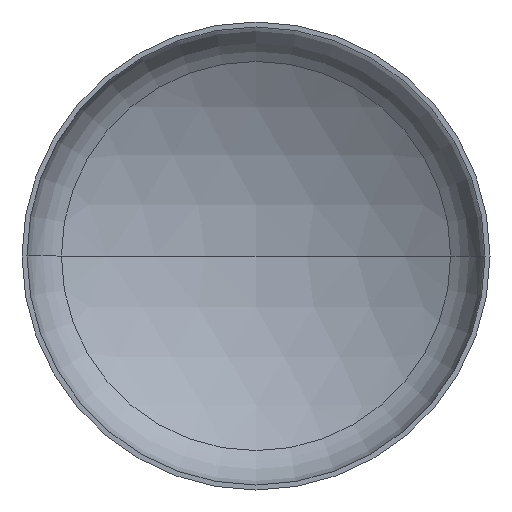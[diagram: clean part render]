
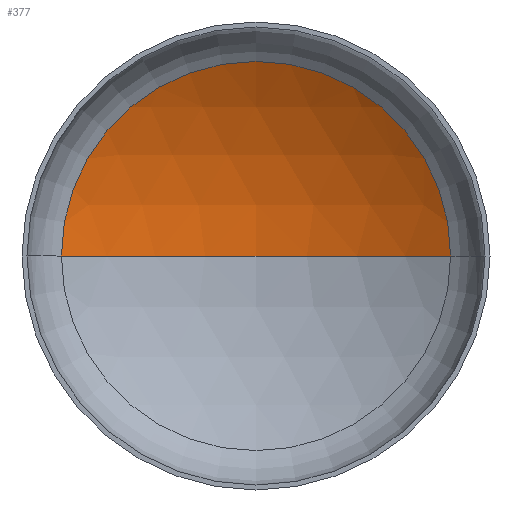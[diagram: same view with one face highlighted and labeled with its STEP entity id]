
A CAD part, front view. The second image highlights one B-rep face of the part: STEP entity #377.
In plain terms, the highlighted spherical face has radius 1280 mm.
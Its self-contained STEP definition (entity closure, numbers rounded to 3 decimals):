
#2 = AXIS2_PLACEMENT_3D ( 'NONE', #353, #182, #209 ) ;
#9 = EDGE_LOOP ( 'NONE', ( #81, #35, #139 ) ) ;
#30 = AXIS2_PLACEMENT_3D ( 'NONE', #343, #164, #173 ) ;
#34 = AXIS2_PLACEMENT_3D ( 'NONE', #220, #152, #384 ) ;
#35 = ORIENTED_EDGE ( 'NONE', *, *, #329, .T. ) ;
#38 = AXIS2_PLACEMENT_3D ( 'NONE', #132, #154, #149 ) ;
#43 = VERTEX_POINT ( 'NONE', #279 ) ;
#56 = CIRCLE ( 'NONE', #30, 1280. ) ;
#81 = ORIENTED_EDGE ( 'NONE', *, *, #341, .F. ) ;
#85 = CIRCLE ( 'NONE', #38, 665.353 ) ;
#118 = VERTEX_POINT ( 'NONE', #236 ) ;
#123 = VERTEX_POINT ( 'NONE', #337 ) ;
#132 = CARTESIAN_POINT ( 'NONE',  ( 0., 264.3, 0. ) ) ;
#139 = ORIENTED_EDGE ( 'NONE', *, *, #316, .T. ) ;
#149 = DIRECTION ( 'NONE',  ( 1., 0., 0. ) ) ;
#152 = DIRECTION ( 'NONE',  ( 0., 0., 1. ) ) ;
#154 = DIRECTION ( 'NONE',  ( 0., -1., 0. ) ) ;
#164 = DIRECTION ( 'NONE',  ( 0., 0., -1. ) ) ;
#173 = DIRECTION ( 'NONE',  ( -1., 0., 0. ) ) ;
#177 = FACE_OUTER_BOUND ( 'NONE', #9, .T. ) ;
#182 = DIRECTION ( 'NONE',  ( 0., 0., -1. ) ) ;
#191 = CIRCLE ( 'NONE', #34, 1280. ) ;
#209 = DIRECTION ( 'NONE',  ( -1., 0., 0. ) ) ;
#220 = CARTESIAN_POINT ( 'NONE',  ( 0., -829.184, 0. ) ) ;
#236 = CARTESIAN_POINT ( 'NONE',  ( -665.353, 264.3, 0. ) ) ;
#279 = CARTESIAN_POINT ( 'NONE',  ( 665.353, 264.3, 0. ) ) ;
#316 = EDGE_CURVE ( 'NONE', #43, #118, #85, .T. ) ;
#329 = EDGE_CURVE ( 'NONE', #123, #43, #56, .T. ) ;
#337 = CARTESIAN_POINT ( 'NONE',  ( 0., 450.816, 0. ) ) ;
#341 = EDGE_CURVE ( 'NONE', #123, #118, #191, .T. ) ;
#343 = CARTESIAN_POINT ( 'NONE',  ( 0., -829.184, 0. ) ) ;
#353 = CARTESIAN_POINT ( 'NONE',  ( 0., -829.184, 0. ) ) ;
#358 = SPHERICAL_SURFACE ( 'NONE', #2, 1280. ) ;
#377 = ADVANCED_FACE ( 'NONE', ( #177 ), #358, .F. ) ;
#384 = DIRECTION ( 'NONE',  ( 1., 0., 0. ) ) ;
